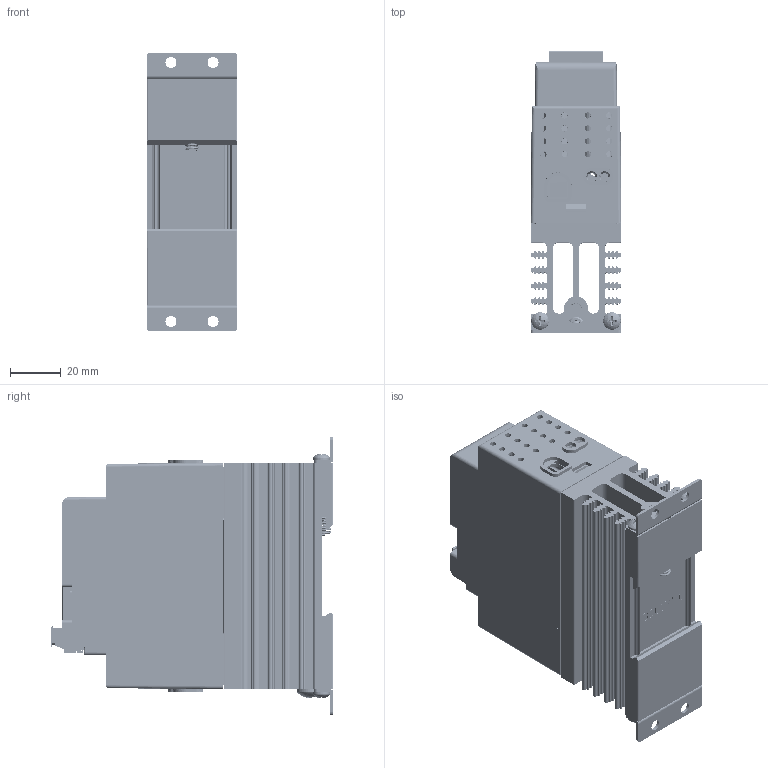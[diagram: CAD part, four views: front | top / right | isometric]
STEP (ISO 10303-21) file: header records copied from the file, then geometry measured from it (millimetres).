
FILE_DESCRIPTION(/* description */ (''),/* implementation_level */ '2;1');
FILE_NAME(/* name */ '1-phase EtherCAT 25A w-tabs.stp',/* time_stamp */ '2024-11-12T08:47:48-06:00',/* author */ ('ErikG'),/* organization */ (''),/* preprocessor_version */ 'ST-DEVELOPER v20',/* originating_system */ 'Autodesk Inventor 2025',/* authorisation */ '');
FILE_SCHEMA (('AUTOMOTIVE_DESIGN { 1 0 10303 214 3 1 1 }'));
Products named in the file (32): 3001631e; 3001761; 1001600G; P11; P6; fci 6 pin header OQ06120000J0G; fci 6 pin headerOQ06120000J0G half 1; fci 5 pin header OQ05120000J0G half 2; fci 6 pin connector TS06110B00J0G; fci 5 pin connector TS05110B00J0G LEFT HALF; fci 5 pin connector TS05110B00J0G RIGHT HALF; P3; usb-c31-s-vt-cs4-bk-pp-t-r-model ADAMTECH; P5; 74990101210 (rev1); base; shielding; top board erase; SW3; SW2; SH-7070TA; _SH-7070A_body; _SH-700-Without knob (Minus slot); 3001763; 3001755; 3001756; 3001750; 0060702-1032-0375; spring; 0060783-0610-010.ipt; 3001752; 0060002-0632-0375
Assembly tree (39 placements, depth 6):
  3001631e
    3001761  x3
    1001600G
      P11
        74990101210 (rev1)
          base
          shielding
      P6
        fci 6 pin header OQ06120000J0G
          fci 6 pin headerOQ06120000J0G half 1
          fci 5 pin header OQ05120000J0G half 2
          fci 6 pin connector TS06110B00J0G
            fci 5 pin connector TS05110B00J0G LEFT HALF
            fci 5 pin connector TS05110B00J0G RIGHT HALF
      P3
        usb-c31-s-vt-cs4-bk-pp-t-r-model ADAMTECH
      P5
        74990101210 (rev1)
          base
          shielding
      top board erase
        SW3
          SH-7070TA
            _SH-7070A_body
            _SH-700-Without knob (Minus slot)
        SW2
          SH-7070TA
            _SH-7070A_body
            _SH-700-Without knob (Minus slot)
    3001763
    3001755
    3001756
    3001750
    0060702-1032-0375
    spring
    0060783-0610-010.ipt
    3001752  x2
    0060002-0632-0375  x4
Bounding box: 35.56 x 110.94 x 109.22 mm (x, y, z)
Volume: 130227.1 mm3; surface area: 133905.5 mm2
Topology: 30 solids, 120 shells, 9239 faces, 25709 edges, 16861 vertices
Faces by surface type: plane 7359, cylinder 1416, cone 241, bspline 111, torus 89, sphere 23
Full cylindrical faces by diameter (mm): 0.254 x1, 0.45 x2, 0.55 x2, 0.65 x2, 1 x2, 1.2 x2, 2.3 x12, 2.642 x3, 2.95 x6, 3.277 x2, 3.28 x2, 3.3 x2, 3.4 x2, 3.42 x2, 3.505 x4, 4 x2, 4.318 x8, 4.826 x1, 4.917 x1, 6 x1, 6.172 x1, 6.858 x4, 9.474 x1
Entity records: 237658 total; most frequent: CARTESIAN_POINT 56235, ORIENTED_EDGE 38344, DIRECTION 35276, EDGE_CURVE 19172, LINE 15568, VECTOR 15568, VERTEX_POINT 12581, AXIS2_PLACEMENT_3D 9854
